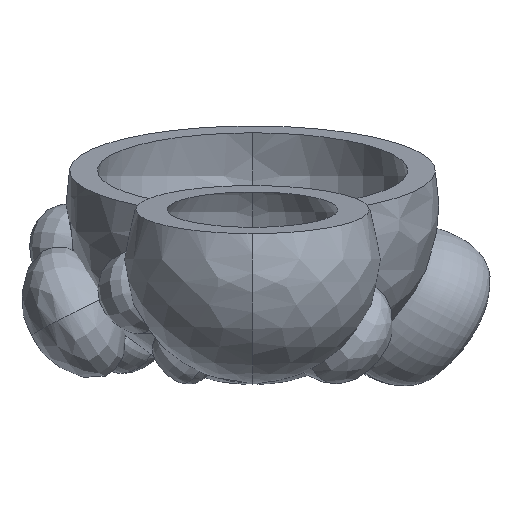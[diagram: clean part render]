
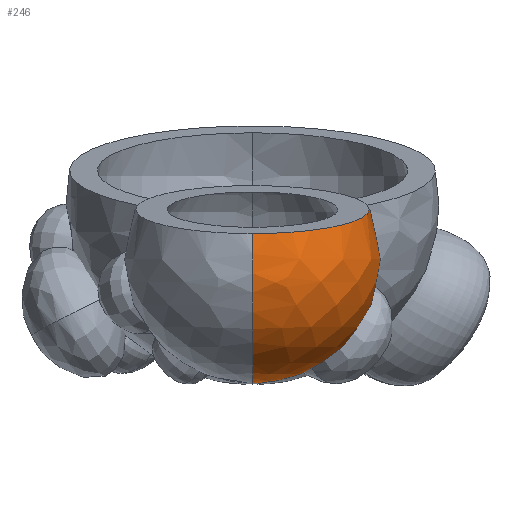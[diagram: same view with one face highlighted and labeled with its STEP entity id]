
A CAD part, left-side view. The second image highlights one B-rep face of the part: STEP entity #246.
In plain terms, the highlighted free-form (B-spline) face has degree [2, 2] with [5, 5] control points.
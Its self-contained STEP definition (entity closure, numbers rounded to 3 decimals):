
#43=(
BOUNDED_CURVE()
B_SPLINE_CURVE(2,(#35606,#35607,#35608,#35609,#35610),.UNSPECIFIED.,.F.,
 .F.)
B_SPLINE_CURVE_WITH_KNOTS((3,2,3),(738.151,772.58,1030.107),
 .UNSPECIFIED.)
CURVE()
GEOMETRIC_REPRESENTATION_ITEM()
RATIONAL_B_SPLINE_CURVE((1.,0.995,1.,0.707,1.))
REPRESENTATION_ITEM('')
);
#45=(
BOUNDED_CURVE()
B_SPLINE_CURVE(2,(#35633,#35634,#35635,#35636,#35637),.UNSPECIFIED.,.F.,
 .F.)
B_SPLINE_CURVE_WITH_KNOTS((3,2,3),(25.286,109.941,316.464),
 .UNSPECIFIED.)
CURVE()
GEOMETRIC_REPRESENTATION_ITEM()
RATIONAL_B_SPLINE_CURVE((1.,0.95,1.,0.707,1.))
REPRESENTATION_ITEM('')
);
#131=(
BOUNDED_SURFACE()
B_SPLINE_SURFACE(2,2,((#34867,#34868,#34869,#34870,#34871),(#34872,#34873,
#34874,#34875,#34876),(#34877,#34878,#34879,#34880,#34881),(#34882,#34883,
#34884,#34885,#34886),(#34887,#34888,#34889,#34890,#34891)),
 .UNSPECIFIED.,.F.,.F.,.F.)
B_SPLINE_SURFACE_WITH_KNOTS((3,2,3),(3,2,3),(0.,109.941,316.464),
(0.,265.858,531.715),.UNSPECIFIED.)
GEOMETRIC_REPRESENTATION_ITEM()
RATIONAL_B_SPLINE_SURFACE(((0.854,0.604,0.854,
0.604,0.854),(0.844,0.597,
0.844,0.597,0.844),(1.,0.707,
1.,0.707,1.),(0.707,0.5,0.707,0.5,0.707),
(1.,0.707,1.,0.707,1.)))
REPRESENTATION_ITEM('')
SURFACE()
);
#246=ADVANCED_FACE('',(#334),#131,.T.);
#334=FACE_OUTER_BOUND('',#424,.T.);
#424=EDGE_LOOP('',(#816,#817,#818));
#816=ORIENTED_EDGE('',*,*,#1048,.F.);
#817=ORIENTED_EDGE('',*,*,#1050,.T.);
#818=ORIENTED_EDGE('',*,*,#1052,.F.);
#1048=EDGE_CURVE('',#1374,#1378,#1230,.T.);
#1050=EDGE_CURVE('',#1374,#1376,#43,.T.);
#1052=EDGE_CURVE('',#1378,#1376,#45,.T.);
#1230=B_SPLINE_CURVE_WITH_KNOTS('',3,(#35511,#35512,#35513,#35514,#35515,
#35516,#35517,#35518,#35519,#35520,#35521,#35522,#35523,#35524,#35525,#35526,
#35527,#35528,#35529,#35530,#35531,#35532,#35533,#35534,#35535,#35536,#35537,
#35538,#35539,#35540,#35541,#35542,#35543,#35544,#35545,#35546,#35547,#35548,
#35549,#35550),.UNSPECIFIED.,.F.,.F.,(4,2,3,2,3,2,3,3,3,2,3,2,3,2,3,4),
(0.,17.369,34.737,53.539,72.341,90.984,
109.626,131.054,143.275,159.476,175.678,
192.4,209.122,225.077,241.032,269.797),
 .UNSPECIFIED.);
#1374=VERTEX_POINT('',#35505);
#1376=VERTEX_POINT('',#35507);
#1378=VERTEX_POINT('',#35509);
#34867=CARTESIAN_POINT('',(-294.163,0.,160.563));
#34868=CARTESIAN_POINT('',(-294.163,-62.831,160.563));
#34869=CARTESIAN_POINT('',(-231.332,-62.831,160.563));
#34870=CARTESIAN_POINT('',(-168.5,-62.831,160.563));
#34871=CARTESIAN_POINT('',(-168.5,0.,160.563));
#34872=CARTESIAN_POINT('',(-325.358,0.,133.422));
#34873=CARTESIAN_POINT('',(-325.358,-94.027,133.422));
#34874=CARTESIAN_POINT('',(-231.332,-94.027,133.422));
#34875=CARTESIAN_POINT('',(-137.305,-94.027,133.422));
#34876=CARTESIAN_POINT('',(-137.305,0.,133.422));
#34877=CARTESIAN_POINT('',(-325.358,0.,92.806));
#34878=CARTESIAN_POINT('',(-325.358,-94.027,92.806));
#34879=CARTESIAN_POINT('',(-231.332,-94.027,92.806));
#34880=CARTESIAN_POINT('',(-137.305,-94.027,92.806));
#34881=CARTESIAN_POINT('',(-137.305,0.,92.806));
#34882=CARTESIAN_POINT('',(-325.358,0.,1.728));
#34883=CARTESIAN_POINT('',(-325.358,-94.027,1.728));
#34884=CARTESIAN_POINT('',(-231.332,-94.027,1.728));
#34885=CARTESIAN_POINT('',(-137.305,-94.027,1.728));
#34886=CARTESIAN_POINT('',(-137.305,0.,1.728));
#34887=CARTESIAN_POINT('',(-231.332,0.,1.728));
#34888=CARTESIAN_POINT('',(-231.332,0.,1.728));
#34889=CARTESIAN_POINT('',(-231.332,0.,1.728));
#34890=CARTESIAN_POINT('',(-231.332,0.,1.728));
#34891=CARTESIAN_POINT('',(-231.332,0.,1.728));
#35505=CARTESIAN_POINT('',(-323.324,0.,111.646));
#35507=CARTESIAN_POINT('',(-231.332,0.,1.728));
#35509=CARTESIAN_POINT('',(-155.712,0.,146.933));
#35511=CARTESIAN_POINT('',(-323.324,0.,111.646));
#35512=CARTESIAN_POINT('',(-323.324,-5.785,111.646));
#35513=CARTESIAN_POINT('',(-322.752,-11.554,111.767));
#35514=CARTESIAN_POINT('',(-320.482,-22.889,112.245));
#35515=CARTESIAN_POINT('',(-318.789,-28.424,112.601));
#35516=CARTESIAN_POINT('',(-316.565,-33.743,113.069));
#35517=CARTESIAN_POINT('',(-314.157,-39.501,113.576));
#35518=CARTESIAN_POINT('',(-311.14,-44.971,114.211));
#35519=CARTESIAN_POINT('',(-303.995,-55.144,115.716));
#35520=CARTESIAN_POINT('',(-299.888,-59.815,116.58));
#35521=CARTESIAN_POINT('',(-295.319,-63.988,117.542));
#35522=CARTESIAN_POINT('',(-290.789,-68.124,118.496));
#35523=CARTESIAN_POINT('',(-285.833,-71.746,119.539));
#35524=CARTESIAN_POINT('',(-275.242,-77.829,121.769));
#35525=CARTESIAN_POINT('',(-269.638,-80.274,122.949));
#35526=CARTESIAN_POINT('',(-263.825,-82.076,124.172));
#35527=CARTESIAN_POINT('',(-257.145,-84.148,125.579));
#35528=CARTESIAN_POINT('',(-250.239,-85.358,127.033));
#35529=CARTESIAN_POINT('',(-243.266,-85.677,128.501));
#35530=CARTESIAN_POINT('',(-239.285,-85.859,129.339));
#35531=CARTESIAN_POINT('',(-235.297,-85.751,130.178));
#35532=CARTESIAN_POINT('',(-231.332,-85.353,131.013));
#35533=CARTESIAN_POINT('',(-226.076,-84.825,132.12));
#35534=CARTESIAN_POINT('',(-220.881,-83.79,133.213));
#35535=CARTESIAN_POINT('',(-210.752,-80.734,135.346));
#35536=CARTESIAN_POINT('',(-205.84,-78.719,136.38));
#35537=CARTESIAN_POINT('',(-201.147,-76.245,137.368));
#35538=CARTESIAN_POINT('',(-196.303,-73.693,138.388));
#35539=CARTESIAN_POINT('',(-191.714,-70.663,139.354));
#35540=CARTESIAN_POINT('',(-183.178,-63.735,141.151));
#35541=CARTESIAN_POINT('',(-179.25,-59.855,141.978));
#35542=CARTESIAN_POINT('',(-175.719,-55.612,142.721));
#35543=CARTESIAN_POINT('',(-172.35,-51.564,143.43));
#35544=CARTESIAN_POINT('',(-169.356,-47.205,144.061));
#35545=CARTESIAN_POINT('',(-164.196,-37.976,145.147));
#35546=CARTESIAN_POINT('',(-162.041,-33.127,145.6));
#35547=CARTESIAN_POINT('',(-160.339,-28.105,145.959));
#35548=CARTESIAN_POINT('',(-157.276,-19.066,146.604));
#35549=CARTESIAN_POINT('',(-155.712,-9.566,146.933));
#35550=CARTESIAN_POINT('',(-155.712,0.,146.933));
#35606=CARTESIAN_POINT('',(-323.324,0.,111.646));
#35607=CARTESIAN_POINT('',(-325.358,0.,102.329));
#35608=CARTESIAN_POINT('',(-325.358,0.,92.806));
#35609=CARTESIAN_POINT('',(-325.358,0.,1.728));
#35610=CARTESIAN_POINT('',(-231.332,0.,1.728));
#35633=CARTESIAN_POINT('',(-155.712,0.,146.933));
#35634=CARTESIAN_POINT('',(-137.305,0.,122.806));
#35635=CARTESIAN_POINT('',(-137.305,0.,92.806));
#35636=CARTESIAN_POINT('',(-137.305,0.,1.728));
#35637=CARTESIAN_POINT('',(-231.332,0.,1.728));
